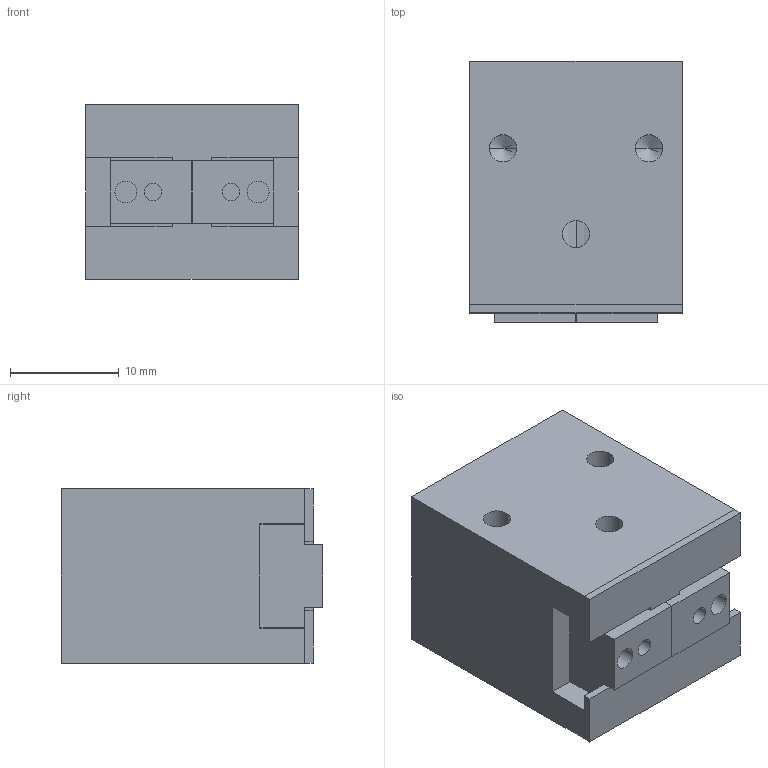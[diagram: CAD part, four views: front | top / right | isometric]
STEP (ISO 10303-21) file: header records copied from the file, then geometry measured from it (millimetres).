
FILE_DESCRIPTION (( 'STEP AP203' ), '1' );
FILE_NAME ('AGPM-1 CLOSED in MM.STEP', '2014-10-31T16:07:58', ( 'setup' ), ( '' ), 'SwSTEP 2.0', 'SolidWorks 2013', '' );
FILE_SCHEMA (( 'CONFIG_CONTROL_DESIGN' ));
Length unit declared in the file: millimetre
Products named in the file (4): AGPM-1 BODY; AGPM-1 JAW; AGPM-1 CAP; AGPM-1 CLOSED in MM
Assembly tree (4 placements, depth 2):
  AGPM-1 CLOSED in MM
    AGPM-1 BODY
    AGPM-1 JAW  x2
    AGPM-1 CAP
Bounding box: 19.51 x 24 x 16 mm (x, y, z)
Volume: 6499.9 mm3; surface area: 4143.8 mm2
Topology: 4 solids, 4 shells, 112 faces, 281 edges, 174 vertices
Faces by surface type: plane 54, cylinder 38, cone 20
Entity records: 3251 total; most frequent: CARTESIAN_POINT 573, DIRECTION 477, ORIENTED_EDGE 446, EDGE_CURVE 223, AXIS2_PLACEMENT_3D 168, VERTEX_POINT 146, VECTOR 141, LINE 141
